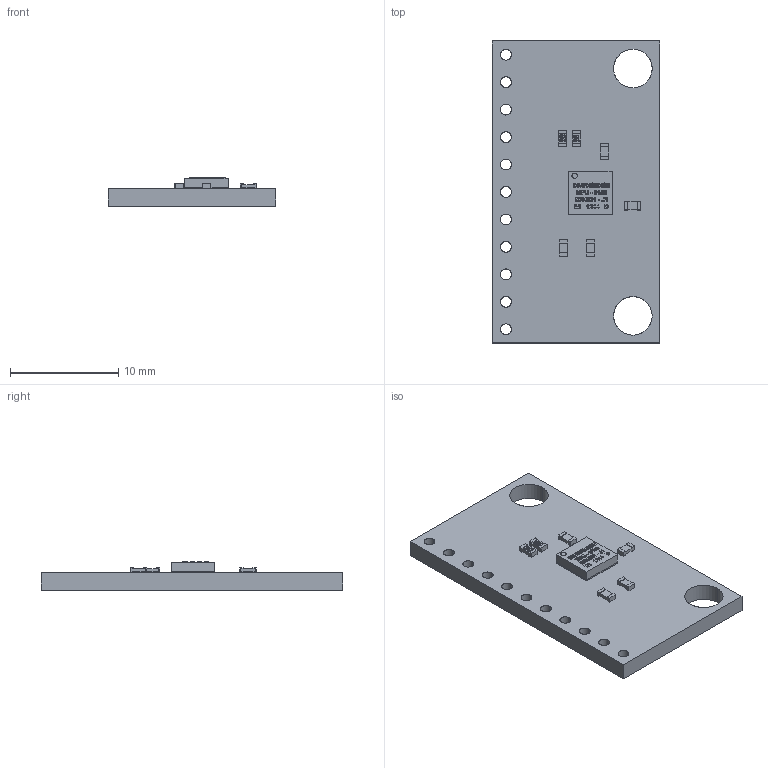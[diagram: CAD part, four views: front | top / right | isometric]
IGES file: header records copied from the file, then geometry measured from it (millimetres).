
Start section: SolidWorks IGES file using analytic representation for surfaces
Global section: file name: E:\juarez\solidworks\aa\request\IGES_MPU-9150_(Assembly).IGS; native system: SolidWorks 2014; preprocessor: SolidWorks 2014; author: Juarez-scn; date: 150311.163427; units: millimetre
Bounding box: 15.5 x 27.94 x 2.61 mm (x, y, z)
Surface area: 1114.4 mm2 (no closed solid volume)
Topology: 0 solids, 0 shells, 981 faces, 5936 edges, 5936 vertices
Faces by surface type: bspline 953, revolution 28
